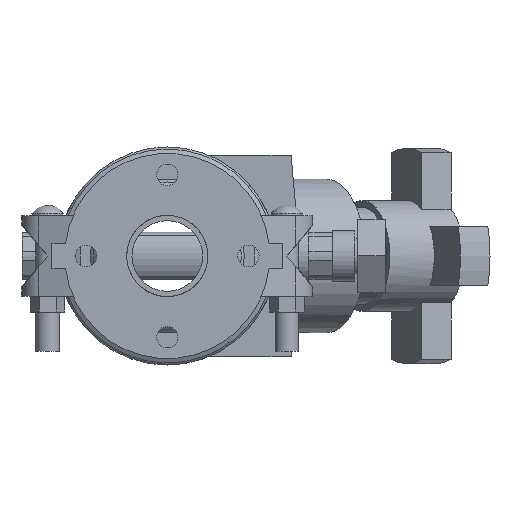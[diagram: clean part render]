
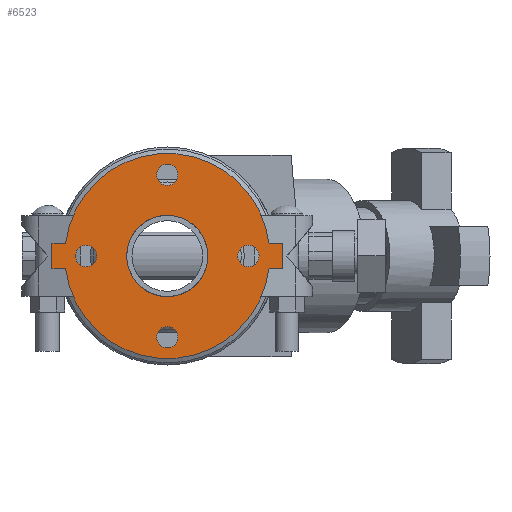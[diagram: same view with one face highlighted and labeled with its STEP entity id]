
A CAD part, front view. The second image highlights one B-rep face of the part: STEP entity #6523.
In plain terms, the highlighted planar face has unit normal (0, -1, 0) as drawn and (0, 0, 1) by its records, which use the part's own axes.
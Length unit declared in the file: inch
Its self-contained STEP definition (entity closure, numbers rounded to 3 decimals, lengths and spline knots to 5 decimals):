
#174=FACE_BOUND('',#824,.T.);
#175=FACE_BOUND('',#825,.T.);
#176=FACE_BOUND('',#826,.T.);
#177=FACE_BOUND('',#827,.T.);
#178=FACE_BOUND('',#828,.T.);
#244=PLANE('',#7095);
#461=FACE_OUTER_BOUND('',#823,.T.);
#823=EDGE_LOOP('',(#4222,#4223,#4224,#4225,#4226,#4227,#4228,#4229));
#824=EDGE_LOOP('',(#4230));
#825=EDGE_LOOP('',(#4231));
#826=EDGE_LOOP('',(#4232));
#827=EDGE_LOOP('',(#4233));
#828=EDGE_LOOP('',(#4234,#4235));
#1245=LINE('',#9953,#1739);
#1246=LINE('',#9956,#1740);
#1249=LINE('',#9961,#1743);
#1250=LINE('',#9964,#1744);
#1252=LINE('',#9967,#1746);
#1253=LINE('',#9969,#1747);
#1739=VECTOR('',#7909,0.3937);
#1740=VECTOR('',#7912,0.3937);
#1743=VECTOR('',#7917,0.3937);
#1744=VECTOR('',#7920,0.3937);
#1746=VECTOR('',#7924,0.3937);
#1747=VECTOR('',#7927,0.3937);
#2217=CIRCLE('',#7066,0.3125);
#2219=CIRCLE('',#7069,0.3125);
#2221=CIRCLE('',#7072,0.3125);
#2223=CIRCLE('',#7075,0.3125);
#2229=CIRCLE('',#7083,3.);
#2230=CIRCLE('',#7085,1.1875);
#2231=CIRCLE('',#7086,1.1875);
#2232=CIRCLE('',#7088,3.);
#2589=VERTEX_POINT('',#9888);
#2591=VERTEX_POINT('',#9894);
#2593=VERTEX_POINT('',#9900);
#2595=VERTEX_POINT('',#9906);
#2607=VERTEX_POINT('',#9933);
#2608=VERTEX_POINT('',#9935);
#2609=VERTEX_POINT('',#9939);
#2610=VERTEX_POINT('',#9941);
#2611=VERTEX_POINT('',#9945);
#2612=VERTEX_POINT('',#9947);
#2613=VERTEX_POINT('',#9951);
#2614=VERTEX_POINT('',#9955);
#2615=VERTEX_POINT('',#9959);
#2616=VERTEX_POINT('',#9963);
#3220=EDGE_CURVE('',#2589,#2589,#2217,.T.);
#3223=EDGE_CURVE('',#2591,#2591,#2219,.T.);
#3226=EDGE_CURVE('',#2593,#2593,#2221,.T.);
#3229=EDGE_CURVE('',#2595,#2595,#2223,.T.);
#3244=EDGE_CURVE('',#2607,#2608,#2229,.T.);
#3246=EDGE_CURVE('',#2610,#2609,#2230,.T.);
#3247=EDGE_CURVE('',#2609,#2610,#2231,.T.);
#3249=EDGE_CURVE('',#2612,#2611,#2232,.T.);
#3252=EDGE_CURVE('',#2608,#2613,#1245,.T.);
#3253=EDGE_CURVE('',#2614,#2612,#1246,.T.);
#3256=EDGE_CURVE('',#2611,#2615,#1249,.T.);
#3257=EDGE_CURVE('',#2616,#2607,#1250,.T.);
#3259=EDGE_CURVE('',#2615,#2616,#1252,.T.);
#3260=EDGE_CURVE('',#2613,#2614,#1253,.T.);
#4222=ORIENTED_EDGE('',*,*,#3256,.T.);
#4223=ORIENTED_EDGE('',*,*,#3259,.T.);
#4224=ORIENTED_EDGE('',*,*,#3257,.T.);
#4225=ORIENTED_EDGE('',*,*,#3244,.T.);
#4226=ORIENTED_EDGE('',*,*,#3252,.T.);
#4227=ORIENTED_EDGE('',*,*,#3260,.T.);
#4228=ORIENTED_EDGE('',*,*,#3253,.T.);
#4229=ORIENTED_EDGE('',*,*,#3249,.T.);
#4230=ORIENTED_EDGE('',*,*,#3220,.T.);
#4231=ORIENTED_EDGE('',*,*,#3223,.T.);
#4232=ORIENTED_EDGE('',*,*,#3226,.T.);
#4233=ORIENTED_EDGE('',*,*,#3229,.T.);
#4234=ORIENTED_EDGE('',*,*,#3246,.T.);
#4235=ORIENTED_EDGE('',*,*,#3247,.T.);
#6523=ADVANCED_FACE('',(#461,#174,#175,#176,#177,#178),#244,.T.);
#7066=AXIS2_PLACEMENT_3D('',#9889,#7845,#7846);
#7069=AXIS2_PLACEMENT_3D('',#9895,#7852,#7853);
#7072=AXIS2_PLACEMENT_3D('',#9901,#7859,#7860);
#7075=AXIS2_PLACEMENT_3D('',#9907,#7866,#7867);
#7083=AXIS2_PLACEMENT_3D('',#9937,#7891,#7892);
#7085=AXIS2_PLACEMENT_3D('',#9942,#7896,#7897);
#7086=AXIS2_PLACEMENT_3D('',#9943,#7898,#7899);
#7088=AXIS2_PLACEMENT_3D('',#9948,#7903,#7904);
#7095=AXIS2_PLACEMENT_3D('',#9970,#7928,#7929);
#7845=DIRECTION('center_axis',(0.,0.,-1.));
#7846=DIRECTION('ref_axis',(0.,1.,0.));
#7852=DIRECTION('center_axis',(0.,0.,-1.));
#7853=DIRECTION('ref_axis',(1.,0.,0.));
#7859=DIRECTION('center_axis',(0.,0.,-1.));
#7860=DIRECTION('ref_axis',(0.,-1.,0.));
#7866=DIRECTION('center_axis',(0.,0.,-1.));
#7867=DIRECTION('ref_axis',(-1.,0.,0.));
#7891=DIRECTION('center_axis',(0.,0.,1.));
#7892=DIRECTION('ref_axis',(-1.,0.,0.));
#7896=DIRECTION('center_axis',(0.,0.,-1.));
#7897=DIRECTION('ref_axis',(-1.,0.,0.));
#7898=DIRECTION('center_axis',(0.,0.,-1.));
#7899=DIRECTION('ref_axis',(-1.,0.,0.));
#7903=DIRECTION('center_axis',(0.,0.,1.));
#7904=DIRECTION('ref_axis',(-1.,0.,0.));
#7909=DIRECTION('',(0.,1.,0.));
#7912=DIRECTION('',(0.,-1.,0.));
#7917=DIRECTION('',(0.,-1.,0.));
#7920=DIRECTION('',(0.,1.,0.));
#7924=DIRECTION('',(1.,0.,0.));
#7927=DIRECTION('',(-1.,0.,0.));
#7928=DIRECTION('center_axis',(0.,0.,1.));
#7929=DIRECTION('ref_axis',(1.,0.,0.));
#9888=CARTESIAN_POINT('',(0.,2.0625,0.375));
#9889=CARTESIAN_POINT('Origin',(0.,2.375,0.375));
#9894=CARTESIAN_POINT('',(2.0625,0.,0.375));
#9895=CARTESIAN_POINT('Origin',(2.375,0.,0.375));
#9900=CARTESIAN_POINT('',(0.,-2.0625,0.375));
#9901=CARTESIAN_POINT('Origin',(0.,-2.375,0.375));
#9906=CARTESIAN_POINT('',(-2.0625,0.,0.375));
#9907=CARTESIAN_POINT('Origin',(-2.375,0.,0.375));
#9933=CARTESIAN_POINT('',(0.375,-2.97647,0.375));
#9935=CARTESIAN_POINT('',(0.375,2.97647,0.375));
#9937=CARTESIAN_POINT('Origin',(0.,0.,0.375));
#9939=CARTESIAN_POINT('',(1.1875,0.,0.375));
#9941=CARTESIAN_POINT('',(0.375,1.12673,0.375));
#9942=CARTESIAN_POINT('Origin',(0.,0.,0.375));
#9943=CARTESIAN_POINT('Origin',(0.,0.,0.375));
#9945=CARTESIAN_POINT('',(-0.375,-2.97647,0.375));
#9947=CARTESIAN_POINT('',(-0.375,2.97647,0.375));
#9948=CARTESIAN_POINT('Origin',(0.,0.,0.375));
#9951=CARTESIAN_POINT('',(0.375,3.375,0.375));
#9953=CARTESIAN_POINT('',(0.375,3.375,0.375));
#9955=CARTESIAN_POINT('',(-0.375,3.375,0.375));
#9956=CARTESIAN_POINT('',(-0.375,-3.375,0.375));
#9959=CARTESIAN_POINT('',(-0.375,-3.375,0.375));
#9961=CARTESIAN_POINT('',(-0.375,-3.375,0.375));
#9963=CARTESIAN_POINT('',(0.375,-3.375,0.375));
#9964=CARTESIAN_POINT('',(0.375,3.375,0.375));
#9967=CARTESIAN_POINT('',(0.375,-3.375,0.375));
#9969=CARTESIAN_POINT('',(-0.375,3.375,0.375));
#9970=CARTESIAN_POINT('Origin',(0.,0.,0.375));
